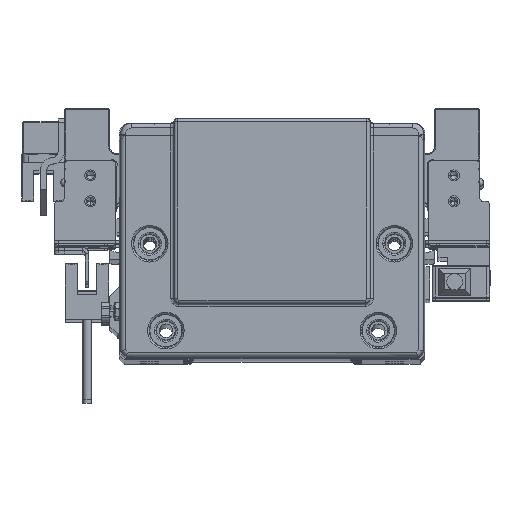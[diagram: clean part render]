
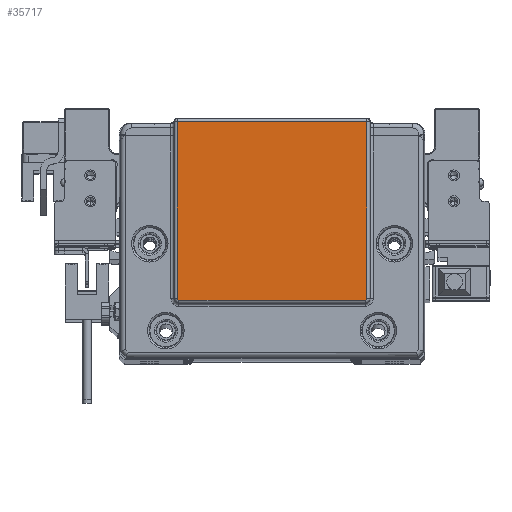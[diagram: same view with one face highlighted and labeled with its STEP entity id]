
A CAD part, top view. The second image highlights one B-rep face of the part: STEP entity #35717.
In plain terms, the highlighted planar face has unit normal (0, 0, 1) as drawn and (0, 0, -1) by its records, which use the part's own axes.
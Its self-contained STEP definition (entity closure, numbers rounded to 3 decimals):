
#368 = DIRECTION ( 'NONE',  ( 0., -1., 0. ) ) ;
#1374 = CARTESIAN_POINT ( 'NONE',  ( 29.391, -18.939, -2. ) ) ;
#1786 = CARTESIAN_POINT ( 'NONE',  ( 29.354, -19.006, -2. ) ) ;
#3108 = DIRECTION ( 'NONE',  ( -1., 0., 0. ) ) ;
#3407 = VERTEX_POINT ( 'NONE', #78646 ) ;
#6775 = CARTESIAN_POINT ( 'NONE',  ( 29.069, -19.218, -2. ) ) ;
#6789 = CARTESIAN_POINT ( 'NONE',  ( 29.312, -19.063, -2. ) ) ;
#7188 = CARTESIAN_POINT ( 'NONE',  ( 28.935, -19.232, -2. ) ) ;
#7296 = ORIENTED_EDGE ( 'NONE', *, *, #64654, .F. ) ;
#8449 = EDGE_CURVE ( 'NONE', #29637, #17256, #44592, .T. ) ;
#9268 = ORIENTED_EDGE ( 'NONE', *, *, #33940, .T. ) ;
#11102 = EDGE_CURVE ( 'NONE', #36274, #3407, #70008, .T. ) ;
#11157 = VECTOR ( 'NONE', #60166, 1000. ) ;
#12277 = CARTESIAN_POINT ( 'NONE',  ( -28.988, -19.232, -2. ) ) ;
#13448 = CARTESIAN_POINT ( 'NONE',  ( 0., -19.232, -2. ) ) ;
#14215 = CARTESIAN_POINT ( 'NONE',  ( 29.201, -19.157, -2. ) ) ;
#14257 = DIRECTION ( 'NONE',  ( -1., 0., 0. ) ) ;
#16141 = VECTOR ( 'NONE', #14257, 1000. ) ;
#17251 = CARTESIAN_POINT ( 'NONE',  ( -29.18, -19.169, -2. ) ) ;
#17256 = VERTEX_POINT ( 'NONE', #58102 ) ;
#18902 = CARTESIAN_POINT ( 'NONE',  ( -29.282, -19.093, -2. ) ) ;
#19223 = CARTESIAN_POINT ( 'NONE',  ( 29.343, -19.023, -2. ) ) ;
#19613 = CARTESIAN_POINT ( 'NONE',  ( 29.003, -19.232, -2. ) ) ;
#20786 = DIRECTION ( 'NONE',  ( 0., 1., 0. ) ) ;
#24294 = CARTESIAN_POINT ( 'NONE',  ( -29.142, -19.188, -2. ) ) ;
#24699 = CARTESIAN_POINT ( 'NONE',  ( -29.289, -19.086, -2. ) ) ;
#24846 = VECTOR ( 'NONE', #368, 1000. ) ;
#25240 = LINE ( 'NONE', #37655, #24846 ) ;
#27064 = CARTESIAN_POINT ( 'NONE',  ( 29.386, -18.948, -2. ) ) ;
#29592 = FACE_OUTER_BOUND ( 'NONE', #53010, .T. ) ;
#29637 = VERTEX_POINT ( 'NONE', #39523 ) ;
#32019 = CARTESIAN_POINT ( 'NONE',  ( 29.247, -19.124, -2. ) ) ;
#32035 = CARTESIAN_POINT ( 'NONE',  ( 29.427, -18.849, -2. ) ) ;
#32425 = CARTESIAN_POINT ( 'NONE',  ( 29.279, -19.096, -2. ) ) ;
#33940 = EDGE_CURVE ( 'NONE', #3407, #81188, #34126, .T. ) ;
#34126 = LINE ( 'NONE', #72170, #11157 ) ;
#35717 = ADVANCED_FACE ( 'NONE', ( #29592 ), #65984, .T. ) ;
#36274 = VERTEX_POINT ( 'NONE', #80319 ) ;
#36292 = CARTESIAN_POINT ( 'NONE',  ( -29.266, -19.109, -2. ) ) ;
#36693 = CARTESIAN_POINT ( 'NONE',  ( -29.226, -19.14, -2. ) ) ;
#37655 = CARTESIAN_POINT ( 'NONE',  ( 29.435, 0., -2. ) ) ;
#37936 = B_SPLINE_CURVE_WITH_KNOTS ( 'NONE', 3,
 ( #56125, #81330, #62738, #81740, #42898, #74316, #73909, #75558, #68942, #68109, #24699, #18902, #36292, #36693, #61508, #17251, #43720, #49923, #24294, #44134, #61111, #61920, #75139, #12277, #69356 ),
 .UNSPECIFIED., .F., .F.,
 ( 4, 2, 1, 1, 1, 1, 2, 2, 2, 2, 2, 1, 2, 2, 4 ),
 ( 0., 0.25, 0.375, 0.437, 0.469, 0.484, 0.492, 0.5, 0.625, 0.687, 0.719, 0.734, 0.742, 0.75, 1. ),
 .UNSPECIFIED. ) ;
#38249 = CARTESIAN_POINT ( 'NONE',  ( 29.296, -19.079, -2. ) ) ;
#39458 = CARTESIAN_POINT ( 'NONE',  ( 29.268, -19.105, -2. ) ) ;
#39523 = CARTESIAN_POINT ( 'NONE',  ( 28.935, -19.232, -2. ) ) ;
#41052 = CARTESIAN_POINT ( 'NONE',  ( 29.435, 36.185, -2. ) ) ;
#42395 = DIRECTION ( 'NONE',  ( 0., 0., -1. ) ) ;
#42898 = CARTESIAN_POINT ( 'NONE',  ( -29.36, -18.998, -2. ) ) ;
#43720 = CARTESIAN_POINT ( 'NONE',  ( -29.169, -19.175, -2. ) ) ;
#44134 = CARTESIAN_POINT ( 'NONE',  ( -29.133, -19.192, -2. ) ) ;
#44592 = B_SPLINE_CURVE_WITH_KNOTS ( 'NONE', 3,
 ( #7188, #19613, #6775, #57264, #14215, #32019, #39458, #32425, #57665, #69260, #50657, #38249, #6789, #19223, #1786, #45276, #51873, #27064, #1374, #58490, #70074, #64270, #32035, #69665, #76674 ),
 .UNSPECIFIED., .F., .F.,
 ( 4, 2, 1, 1, 1, 1, 2, 2, 2, 2, 2, 1, 2, 2, 4 ),
 ( 0., 0.25, 0.375, 0.438, 0.469, 0.484, 0.492, 0.5, 0.625, 0.688, 0.719, 0.734, 0.742, 0.75, 1. ),
 .UNSPECIFIED. ) ;
#44886 = LINE ( 'NONE', #13448, #16141 ) ;
#45141 = ORIENTED_EDGE ( 'NONE', *, *, #8449, .F. ) ;
#45276 = CARTESIAN_POINT ( 'NONE',  ( 29.372, -18.977, -2. ) ) ;
#48675 = EDGE_CURVE ( 'NONE', #81188, #17256, #25240, .T. ) ;
#49581 = ORIENTED_EDGE ( 'NONE', *, *, #11102, .T. ) ;
#49923 = CARTESIAN_POINT ( 'NONE',  ( -29.151, -19.183, -2. ) ) ;
#50086 = VECTOR ( 'NONE', #20786, 1000. ) ;
#50657 = CARTESIAN_POINT ( 'NONE',  ( 29.288, -19.086, -2. ) ) ;
#51873 = CARTESIAN_POINT ( 'NONE',  ( 29.378, -18.966, -2. ) ) ;
#53010 = EDGE_LOOP ( 'NONE', ( #49581, #9268, #70854, #45141, #54626, #7296 ) ) ;
#54186 = VERTEX_POINT ( 'NONE', #59395 ) ;
#54626 = ORIENTED_EDGE ( 'NONE', *, *, #67243, .T. ) ;
#56125 = CARTESIAN_POINT ( 'NONE',  ( -29.435, -18.732, -2. ) ) ;
#57264 = CARTESIAN_POINT ( 'NONE',  ( 29.158, -19.18, -2. ) ) ;
#57665 = CARTESIAN_POINT ( 'NONE',  ( 29.283, -19.092, -2. ) ) ;
#58102 = CARTESIAN_POINT ( 'NONE',  ( 29.435, -18.732, -2. ) ) ;
#58490 = CARTESIAN_POINT ( 'NONE',  ( 29.395, -18.93, -2. ) ) ;
#59395 = CARTESIAN_POINT ( 'NONE',  ( -28.935, -19.232, -2. ) ) ;
#59803 = CARTESIAN_POINT ( 'NONE',  ( 0., 0., -2. ) ) ;
#60166 = DIRECTION ( 'NONE',  ( 1., 0., 0. ) ) ;
#61111 = CARTESIAN_POINT ( 'NONE',  ( -29.126, -19.195, -2. ) ) ;
#61508 = CARTESIAN_POINT ( 'NONE',  ( -29.209, -19.151, -2. ) ) ;
#61920 = CARTESIAN_POINT ( 'NONE',  ( -29.121, -19.196, -2. ) ) ;
#62738 = CARTESIAN_POINT ( 'NONE',  ( -29.421, -18.866, -2. ) ) ;
#64270 = CARTESIAN_POINT ( 'NONE',  ( 29.399, -18.919, -2. ) ) ;
#64654 = EDGE_CURVE ( 'NONE', #36274, #54186, #37936, .T. ) ;
#65984 = PLANE ( 'NONE',  #81402 ) ;
#67243 = EDGE_CURVE ( 'NONE', #29637, #54186, #44886, .T. ) ;
#68109 = CARTESIAN_POINT ( 'NONE',  ( -29.292, -19.083, -2. ) ) ;
#68942 = CARTESIAN_POINT ( 'NONE',  ( -29.294, -19.08, -2. ) ) ;
#69260 = CARTESIAN_POINT ( 'NONE',  ( 29.286, -19.089, -2. ) ) ;
#69356 = CARTESIAN_POINT ( 'NONE',  ( -28.935, -19.232, -2. ) ) ;
#69665 = CARTESIAN_POINT ( 'NONE',  ( 29.435, -18.785, -2. ) ) ;
#70008 = LINE ( 'NONE', #77009, #50086 ) ;
#70074 = CARTESIAN_POINT ( 'NONE',  ( 29.397, -18.923, -2. ) ) ;
#70854 = ORIENTED_EDGE ( 'NONE', *, *, #48675, .T. ) ;
#72170 = CARTESIAN_POINT ( 'NONE',  ( 0., 36.185, -2. ) ) ;
#73909 = CARTESIAN_POINT ( 'NONE',  ( -29.308, -19.065, -2. ) ) ;
#74316 = CARTESIAN_POINT ( 'NONE',  ( -29.326, -19.044, -2. ) ) ;
#75139 = CARTESIAN_POINT ( 'NONE',  ( -29.051, -19.224, -2. ) ) ;
#75558 = CARTESIAN_POINT ( 'NONE',  ( -29.299, -19.076, -2. ) ) ;
#76674 = CARTESIAN_POINT ( 'NONE',  ( 29.435, -18.732, -2. ) ) ;
#77009 = CARTESIAN_POINT ( 'NONE',  ( -29.435, 0., -2. ) ) ;
#78646 = CARTESIAN_POINT ( 'NONE',  ( -29.435, 36.185, -2. ) ) ;
#80319 = CARTESIAN_POINT ( 'NONE',  ( -29.435, -18.732, -2. ) ) ;
#81188 = VERTEX_POINT ( 'NONE', #41052 ) ;
#81330 = CARTESIAN_POINT ( 'NONE',  ( -29.435, -18.801, -2. ) ) ;
#81402 = AXIS2_PLACEMENT_3D ( 'NONE', #59803, #42395, #3108 ) ;
#81740 = CARTESIAN_POINT ( 'NONE',  ( -29.383, -18.956, -2. ) ) ;
